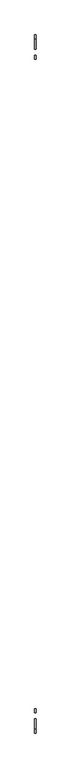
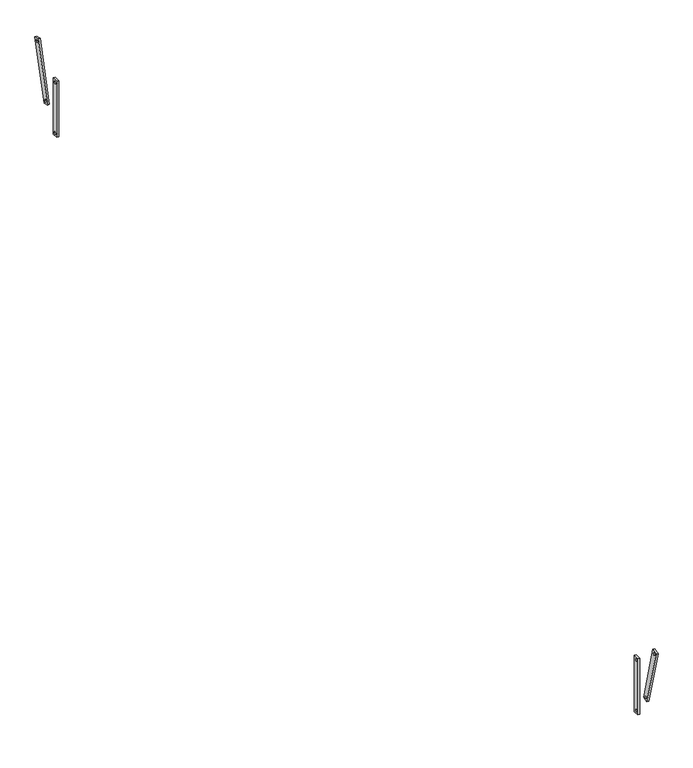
"""IFC4 building model written with IfcOpenShell, lengths in millimetres: proxy geometry, Modelos genéricos 287 : Modelos genéricos 278."""

from ifc_helpers import new_model, si_unit, point, frame, frame_2d, origin, place, context, project, spatial, polyline, circle_curve, trimmed, segment, composite_curve, outline, extrude, source, transform, mapped, element, save


def generic_models_9c89c931(model_context):
    return source(origin(), model_context, "Body", "SweptSolid", [
        extrude(outline(polyline([(5318.6238165, 2800.0), (5318.6238165, 3200.0), (5358.6238165, 3200.0), (5358.6238165, 2800.0), (5318.6238165, 2800.0)]), holes=[composite_curve([segment(trimmed(circle_curve(frame_2d((5338.6238165, 3180.0)), 7.5), [point((5346.1238165, 3180.0))], [point((5331.1238165, 3180.0))], True, "CARTESIAN"), True, "CONTINUOUS"), segment(trimmed(circle_curve(frame_2d((5338.6238165, 3180.0)), 7.5), [point((5331.1238165, 3180.0))], [point((5346.1238165, 3180.0))], True, "CARTESIAN"), True, "CONTINUOUS")], self_intersect=False), composite_curve([segment(trimmed(circle_curve(frame_2d((5338.6238165, 2820.0)), 7.5), [point((5346.1238165, 2820.0))], [point((5331.1238165, 2820.0))], True, "CARTESIAN"), True, "CONTINUOUS"), segment(trimmed(circle_curve(frame_2d((5338.6238165, 2820.0)), 7.5), [point((5331.1238165, 2820.0))], [point((5346.1238165, 2820.0))], True, "CARTESIAN"), True, "CONTINUOUS")], self_intersect=False)]), frame((1983.4472467, 0.0, 0.0), z_axis=(1.0, 0.0, 0.0), x_axis=(0.0, 1.0, 0.0)), (0.0, 0.0, 1.0), 12.7),
        extrude(outline(polyline([(5424.7907615, 2966.5419368), (5533.4947604, 3372.2307838), (5572.1317934, 3361.878022), (5463.4277945, 2956.1891749), (5424.7907615, 2966.5419368)]), holes=[composite_curve([segment(trimmed(circle_curve(frame_2d((5547.636896, 3347.7358864)), 7.5), [point((5554.8813397, 3345.7947435))], [point((5540.3924523, 3349.6770292))], True, "CARTESIAN"), True, "CONTINUOUS"), segment(trimmed(circle_curve(frame_2d((5547.636896, 3347.7358864)), 7.5), [point((5540.3924523, 3349.6770292))], [point((5554.8813397, 3345.7947435))], True, "CARTESIAN"), True, "CONTINUOUS")], self_intersect=False), composite_curve([segment(trimmed(circle_curve(frame_2d((5449.2856589, 2980.6840724)), 7.5), [point((5456.5301026, 2978.7429295))], [point((5442.0412152, 2982.6252152))], True, "CARTESIAN"), True, "CONTINUOUS"), segment(trimmed(circle_curve(frame_2d((5449.2856589, 2980.6840724)), 7.5), [point((5442.0412152, 2982.6252152))], [point((5456.5301026, 2978.7429295))], True, "CARTESIAN"), True, "CONTINUOUS")], self_intersect=False)]), frame((1983.4472467, 0.0, 0.0), z_axis=(1.0, 0.0, 0.0), x_axis=(0.0, 1.0, 0.0)), (0.0, 0.0, 1.0), 12.7),
        extrude(outline(polyline([(-1421.3761835, 2800.0), (-1461.3761835, 2800.0), (-1461.3761835, 3200.0), (-1421.3761835, 3200.0), (-1421.3761835, 2800.0)]), holes=[composite_curve([segment(trimmed(circle_curve(frame_2d((-1441.3761835, 3180.0)), 7.5), [point((-1448.8761835, 3180.0))], [point((-1433.8761835, 3180.0))], True, "CARTESIAN"), True, "CONTINUOUS"), segment(trimmed(circle_curve(frame_2d((-1441.3761835, 3180.0)), 7.5), [point((-1433.8761835, 3180.0))], [point((-1448.8761835, 3180.0))], True, "CARTESIAN"), True, "CONTINUOUS")], self_intersect=False), composite_curve([segment(trimmed(circle_curve(frame_2d((-1441.3761835, 2820.0)), 7.5), [point((-1448.8761835, 2820.0))], [point((-1433.8761835, 2820.0))], True, "CARTESIAN"), True, "CONTINUOUS"), segment(trimmed(circle_curve(frame_2d((-1441.3761835, 2820.0)), 7.5), [point((-1433.8761835, 2820.0))], [point((-1448.8761835, 2820.0))], True, "CARTESIAN"), True, "CONTINUOUS")], self_intersect=False)]), frame((1983.4472467, 0.0, 0.0), z_axis=(1.0, 0.0, 0.0), x_axis=(0.0, 1.0, 0.0)), (0.0, 0.0, 1.0), 12.7),
        extrude(outline(polyline([(-1527.5431285, 2966.5419368), (-1566.1801615, 2956.1891749), (-1674.8841605, 3361.878022), (-1636.2471274, 3372.2307838), (-1527.5431285, 2966.5419368)]), holes=[composite_curve([segment(trimmed(circle_curve(frame_2d((-1650.389263, 3347.7358864)), 7.5), [point((-1657.6337067, 3345.7947435))], [point((-1643.1448193, 3349.6770292))], True, "CARTESIAN"), True, "CONTINUOUS"), segment(trimmed(circle_curve(frame_2d((-1650.389263, 3347.7358864)), 7.5), [point((-1643.1448193, 3349.6770292))], [point((-1657.6337067, 3345.7947435))], True, "CARTESIAN"), True, "CONTINUOUS")], self_intersect=False), composite_curve([segment(trimmed(circle_curve(frame_2d((-1552.0380259, 2980.6840724)), 7.5), [point((-1559.2824696, 2978.7429295))], [point((-1544.7935822, 2982.6252152))], True, "CARTESIAN"), True, "CONTINUOUS"), segment(trimmed(circle_curve(frame_2d((-1552.0380259, 2980.6840724)), 7.5), [point((-1544.7935822, 2982.6252152))], [point((-1559.2824696, 2978.7429295))], True, "CARTESIAN"), True, "CONTINUOUS")], self_intersect=False)]), frame((1983.4472467, 0.0, 0.0), z_axis=(1.0, 0.0, 0.0), x_axis=(0.0, 1.0, 0.0)), (0.0, 0.0, 1.0), 12.7),
    ])


if __name__ == "__main__":
    model = new_model("IFC4")
    model_context = context("Model", 3, world=origin())
    ifc_project = project(units=[si_unit("LENGTHUNIT", "METRE", prefix="MILLI")], contexts=[model_context])
    site = spatial("IfcSite", under=ifc_project)
    building = spatial("IfcBuilding", under=site)
    placement = place(None, origin())
    generic_models_shape = generic_models_9c89c931(model_context)
    element("IfcBuildingElementProxy", 1, Name="Modelos genéricos 287 : Modelos genéricos 278", ObjectType="Modelos genéricos 287 : Modelos genéricos 278", at=placement, inside=building, context=model_context, shape_type="MappedRepresentation", body=[
        mapped(generic_models_shape, transform((0.0, 0.0, 0.0), x_axis=(1.0, 0.0, 0.0), y_axis=(0.0, 1.0, 0.0), z_axis=(0.0, 0.0, 1.0))),
    ])
    save(model, "model.ifc")
